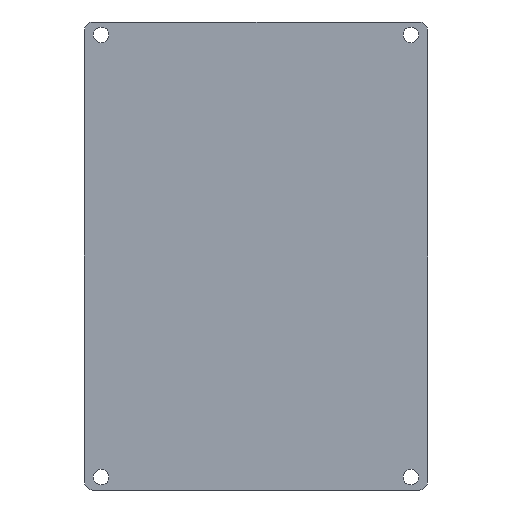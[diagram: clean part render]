
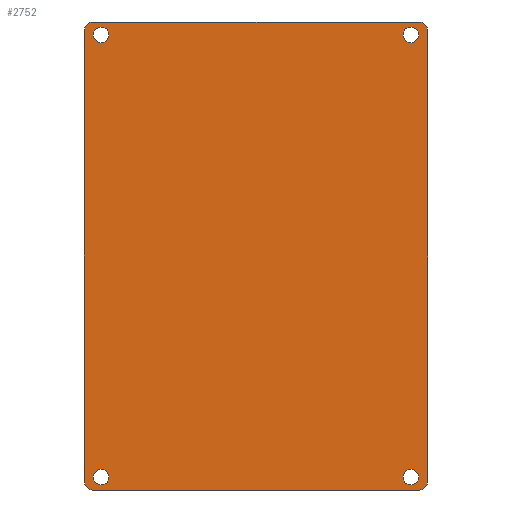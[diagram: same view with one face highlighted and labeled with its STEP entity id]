
A CAD part, front view. The second image highlights one B-rep face of the part: STEP entity #2752.
In plain terms, the highlighted planar face has unit normal (0, -1, 0).
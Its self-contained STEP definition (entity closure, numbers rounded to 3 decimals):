
#1=CARTESIAN_POINT('',(-73.7,0.,-101.8));
#2=DIRECTION('',(0.,-1.,0.));
#3=DIRECTION('',(-1.,0.,0.));
#4=AXIS2_PLACEMENT_3D('',#1,#2,#3);
#6=DIRECTION('',(0.,0.,1.));
#7=VECTOR('',#6,203.6);
#8=CARTESIAN_POINT('',(-77.7,0.,-101.8));
#9=LINE('',#8,#7);
#10=CARTESIAN_POINT('',(-73.7,0.,101.8));
#11=DIRECTION('',(0.,-1.,0.));
#12=DIRECTION('',(0.,0.,1.));
#13=AXIS2_PLACEMENT_3D('',#10,#11,#12);
#15=DIRECTION('',(1.,0.,0.));
#16=VECTOR('',#15,147.4);
#17=CARTESIAN_POINT('',(-73.7,0.,105.8));
#18=LINE('',#17,#16);
#19=CARTESIAN_POINT('',(73.7,0.,101.8));
#20=DIRECTION('',(0.,-1.,0.));
#21=DIRECTION('',(1.,0.,0.));
#22=AXIS2_PLACEMENT_3D('',#19,#20,#21);
#24=DIRECTION('',(0.,0.,-1.));
#25=VECTOR('',#24,203.6);
#26=CARTESIAN_POINT('',(77.7,0.,101.8));
#27=LINE('',#26,#25);
#28=CARTESIAN_POINT('',(73.7,0.,-101.8));
#29=DIRECTION('',(0.,-1.,0.));
#30=DIRECTION('',(0.,0.,-1.));
#31=AXIS2_PLACEMENT_3D('',#28,#29,#30);
#33=DIRECTION('',(-1.,0.,0.));
#34=VECTOR('',#33,147.4);
#35=CARTESIAN_POINT('',(73.7,0.,-105.8));
#36=LINE('',#35,#34);
#37=CARTESIAN_POINT('',(70.,0.,-100.));
#38=DIRECTION('',(0.,1.,0.));
#39=DIRECTION('',(1.,0.,0.));
#40=AXIS2_PLACEMENT_3D('',#37,#38,#39);
#42=CARTESIAN_POINT('',(70.,0.,-100.));
#43=DIRECTION('',(0.,1.,0.));
#44=DIRECTION('',(-1.,0.,0.));
#45=AXIS2_PLACEMENT_3D('',#42,#43,#44);
#47=CARTESIAN_POINT('',(-70.,0.,-100.));
#48=DIRECTION('',(0.,1.,0.));
#49=DIRECTION('',(1.,0.,0.));
#50=AXIS2_PLACEMENT_3D('',#47,#48,#49);
#52=CARTESIAN_POINT('',(-70.,0.,-100.));
#53=DIRECTION('',(0.,1.,0.));
#54=DIRECTION('',(-1.,0.,0.));
#55=AXIS2_PLACEMENT_3D('',#52,#53,#54);
#57=CARTESIAN_POINT('',(-70.,0.,100.));
#58=DIRECTION('',(0.,1.,0.));
#59=DIRECTION('',(1.,0.,0.));
#60=AXIS2_PLACEMENT_3D('',#57,#58,#59);
#62=CARTESIAN_POINT('',(-70.,0.,100.));
#63=DIRECTION('',(0.,1.,0.));
#64=DIRECTION('',(-1.,0.,0.));
#65=AXIS2_PLACEMENT_3D('',#62,#63,#64);
#67=CARTESIAN_POINT('',(70.,0.,100.));
#68=DIRECTION('',(0.,1.,0.));
#69=DIRECTION('',(1.,0.,0.));
#70=AXIS2_PLACEMENT_3D('',#67,#68,#69);
#72=CARTESIAN_POINT('',(70.,0.,100.));
#73=DIRECTION('',(0.,1.,0.));
#74=DIRECTION('',(-1.,0.,0.));
#75=AXIS2_PLACEMENT_3D('',#72,#73,#74);
#2609=CARTESIAN_POINT('',(-77.7,0.,-101.8));
#2610=CARTESIAN_POINT('',(-73.7,0.,-105.8));
#2611=VERTEX_POINT('',#2609);
#2612=VERTEX_POINT('',#2610);
#2617=CARTESIAN_POINT('',(-73.7,0.,105.8));
#2618=CARTESIAN_POINT('',(-77.7,0.,101.8));
#2619=VERTEX_POINT('',#2617);
#2620=VERTEX_POINT('',#2618);
#2625=CARTESIAN_POINT('',(77.7,0.,101.8));
#2626=CARTESIAN_POINT('',(73.7,0.,105.8));
#2627=VERTEX_POINT('',#2625);
#2628=VERTEX_POINT('',#2626);
#2633=CARTESIAN_POINT('',(73.7,0.,-105.8));
#2634=CARTESIAN_POINT('',(77.7,0.,-101.8));
#2635=VERTEX_POINT('',#2633);
#2636=VERTEX_POINT('',#2634);
#2673=CARTESIAN_POINT('',(73.5,0.,-100.));
#2674=CARTESIAN_POINT('',(66.5,0.,-100.));
#2675=VERTEX_POINT('',#2673);
#2676=VERTEX_POINT('',#2674);
#2677=CARTESIAN_POINT('',(-66.5,0.,-100.));
#2678=CARTESIAN_POINT('',(-73.5,0.,-100.));
#2679=VERTEX_POINT('',#2677);
#2680=VERTEX_POINT('',#2678);
#2681=CARTESIAN_POINT('',(-66.5,0.,100.));
#2682=CARTESIAN_POINT('',(-73.5,0.,100.));
#2683=VERTEX_POINT('',#2681);
#2684=VERTEX_POINT('',#2682);
#2685=CARTESIAN_POINT('',(73.5,0.,100.));
#2686=CARTESIAN_POINT('',(66.5,0.,100.));
#2687=VERTEX_POINT('',#2685);
#2688=VERTEX_POINT('',#2686);
#2705=CARTESIAN_POINT('',(0.,0.,0.));
#2706=DIRECTION('',(0.,1.,0.));
#2707=DIRECTION('',(1.,0.,0.));
#2708=AXIS2_PLACEMENT_3D('',#2705,#2706,#2707);
#2709=PLANE('',#2708);
#2711=ORIENTED_EDGE('',*,*,#2710,.F.);
#2713=ORIENTED_EDGE('',*,*,#2712,.T.);
#2715=ORIENTED_EDGE('',*,*,#2714,.F.);
#2717=ORIENTED_EDGE('',*,*,#2716,.T.);
#2719=ORIENTED_EDGE('',*,*,#2718,.F.);
#2721=ORIENTED_EDGE('',*,*,#2720,.T.);
#2723=ORIENTED_EDGE('',*,*,#2722,.F.);
#2725=ORIENTED_EDGE('',*,*,#2724,.T.);
#2726=EDGE_LOOP('',(#2711,#2713,#2715,#2717,#2719,#2721,#2723,#2725));
#2727=FACE_OUTER_BOUND('',#2726,.F.);
#2729=ORIENTED_EDGE('',*,*,#2728,.F.);
#2731=ORIENTED_EDGE('',*,*,#2730,.F.);
#2732=EDGE_LOOP('',(#2729,#2731));
#2733=FACE_BOUND('',#2732,.F.);
#2735=ORIENTED_EDGE('',*,*,#2734,.F.);
#2737=ORIENTED_EDGE('',*,*,#2736,.F.);
#2738=EDGE_LOOP('',(#2735,#2737));
#2739=FACE_BOUND('',#2738,.F.);
#2741=ORIENTED_EDGE('',*,*,#2740,.F.);
#2743=ORIENTED_EDGE('',*,*,#2742,.F.);
#2744=EDGE_LOOP('',(#2741,#2743));
#2745=FACE_BOUND('',#2744,.F.);
#2747=ORIENTED_EDGE('',*,*,#2746,.F.);
#2749=ORIENTED_EDGE('',*,*,#2748,.F.);
#2750=EDGE_LOOP('',(#2747,#2749));
#2751=FACE_BOUND('',#2750,.F.);
#5=CIRCLE('',#4,4.);
#14=CIRCLE('',#13,4.);
#23=CIRCLE('',#22,4.);
#32=CIRCLE('',#31,4.);
#41=CIRCLE('',#40,3.5);
#46=CIRCLE('',#45,3.5);
#51=CIRCLE('',#50,3.5);
#56=CIRCLE('',#55,3.5);
#61=CIRCLE('',#60,3.5);
#66=CIRCLE('',#65,3.5);
#71=CIRCLE('',#70,3.5);
#76=CIRCLE('',#75,3.5);
#2710=EDGE_CURVE('',#2611,#2612,#5,.T.);
#2712=EDGE_CURVE('',#2611,#2620,#9,.T.);
#2714=EDGE_CURVE('',#2619,#2620,#14,.T.);
#2716=EDGE_CURVE('',#2619,#2628,#18,.T.);
#2718=EDGE_CURVE('',#2627,#2628,#23,.T.);
#2720=EDGE_CURVE('',#2627,#2636,#27,.T.);
#2722=EDGE_CURVE('',#2635,#2636,#32,.T.);
#2724=EDGE_CURVE('',#2635,#2612,#36,.T.);
#2728=EDGE_CURVE('',#2675,#2676,#41,.T.);
#2730=EDGE_CURVE('',#2676,#2675,#46,.T.);
#2734=EDGE_CURVE('',#2679,#2680,#51,.T.);
#2736=EDGE_CURVE('',#2680,#2679,#56,.T.);
#2740=EDGE_CURVE('',#2683,#2684,#61,.T.);
#2742=EDGE_CURVE('',#2684,#2683,#66,.T.);
#2746=EDGE_CURVE('',#2687,#2688,#71,.T.);
#2748=EDGE_CURVE('',#2688,#2687,#76,.T.);
#2752=ADVANCED_FACE('',(#2727,#2733,#2739,#2745,#2751),#2709,.F.);
